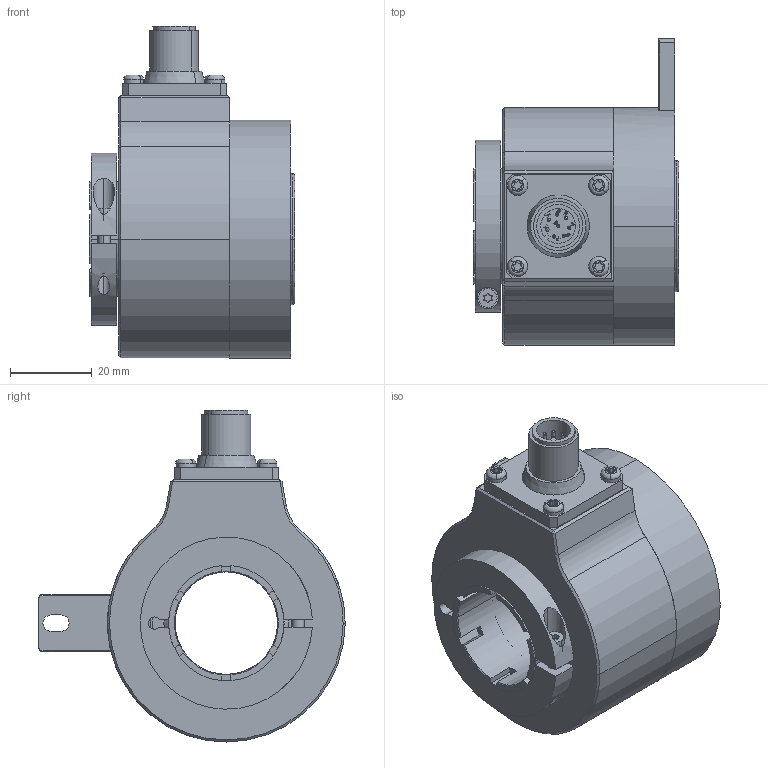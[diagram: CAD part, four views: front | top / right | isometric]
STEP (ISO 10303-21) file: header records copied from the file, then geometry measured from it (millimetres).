
FILE_DESCRIPTION (( 'STEP AP203' ), '1' );
FILE_NAME ('K58I.OXX.XXXXX.XC17525.XXRC2.step', '2025-12-03T07:59:29', ( '' ), ( '' ), 'SwSTEP 2.0', 'SolidWorks 2021', '' );
FILE_SCHEMA (( 'CONFIG_CONTROL_DESIGN' ));
Length unit declared in the file: millimetre
Products named in the file (1): K58I.OXX.XXXXX.XC17525.XXRC2
Bounding box: 50.1 x 74.75 x 81 mm (x, y, z)
Volume: 105884.9 mm3; surface area: 40635.2 mm2
Topology: 7 solids, 7 shells, 505 faces, 1323 edges, 849 vertices
Faces by surface type: cylinder 188, plane 183, bspline 70, cone 46, sphere 16, torus 2
Entity records: 19558 total; most frequent: CARTESIAN_POINT 7424, ORIENTED_EDGE 2558, DIRECTION 2423, EDGE_CURVE 1279, AXIS2_PLACEMENT_3D 878, VERTEX_POINT 833, VECTOR 667, LINE 667
